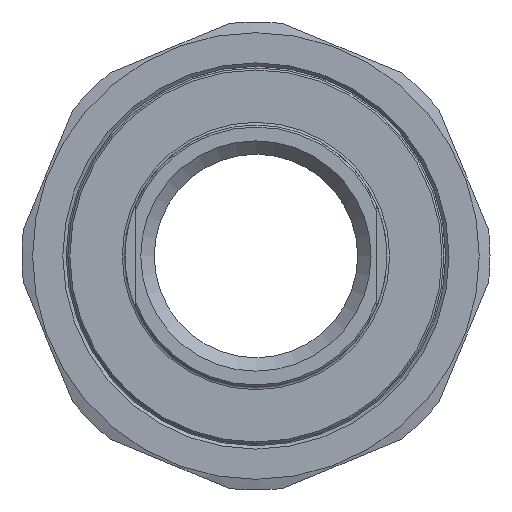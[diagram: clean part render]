
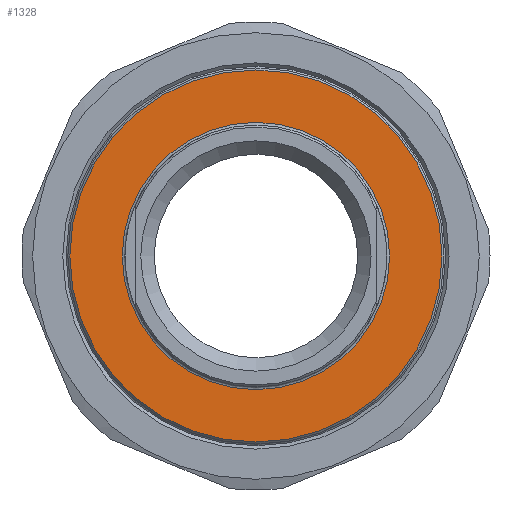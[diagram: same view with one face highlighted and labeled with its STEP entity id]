
A CAD part, left-side view. The second image highlights one B-rep face of the part: STEP entity #1328.
In plain terms, the highlighted planar face has unit normal (-1, 0, 0).
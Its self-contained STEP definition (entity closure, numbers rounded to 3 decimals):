
#59=FACE_BOUND('',#297,.T.);
#133=PLANE('',#1583);
#205=FACE_OUTER_BOUND('',#296,.T.);
#296=EDGE_LOOP('',(#1191));
#297=EDGE_LOOP('',(#1192));
#523=CIRCLE('',#1581,19.9);
#525=CIRCLE('',#1584,27.7);
#651=VERTEX_POINT('',#2469);
#652=VERTEX_POINT('',#2474);
#836=EDGE_CURVE('',#651,#651,#523,.T.);
#838=EDGE_CURVE('',#652,#652,#525,.T.);
#1191=ORIENTED_EDGE('',*,*,#838,.F.);
#1192=ORIENTED_EDGE('',*,*,#836,.F.);
#1328=ADVANCED_FACE('',(#205,#59),#133,.T.);
#1581=AXIS2_PLACEMENT_3D('',#2471,#2004,#2005);
#1583=AXIS2_PLACEMENT_3D('',#2473,#2008,#2009);
#1584=AXIS2_PLACEMENT_3D('',#2475,#2010,#2011);
#2004=DIRECTION('center_axis',(-1.,0.,0.));
#2005=DIRECTION('ref_axis',(0.,-1.,0.));
#2008=DIRECTION('center_axis',(-1.,0.,0.));
#2009=DIRECTION('ref_axis',(0.,0.,1.));
#2010=DIRECTION('center_axis',(1.,0.,0.));
#2011=DIRECTION('ref_axis',(0.,-1.,0.));
#2469=CARTESIAN_POINT('',(-13.5,0.,19.9));
#2471=CARTESIAN_POINT('Origin',(-13.5,0.,0.));
#2473=CARTESIAN_POINT('Origin',(-13.5,28.,0.));
#2474=CARTESIAN_POINT('',(-13.5,27.7,0.));
#2475=CARTESIAN_POINT('Origin',(-13.5,0.,0.));
